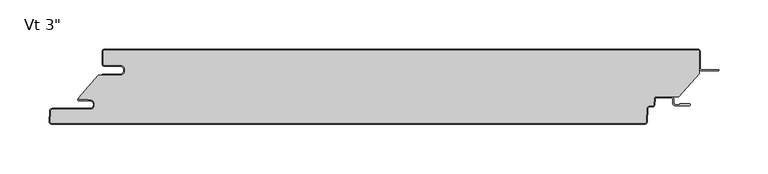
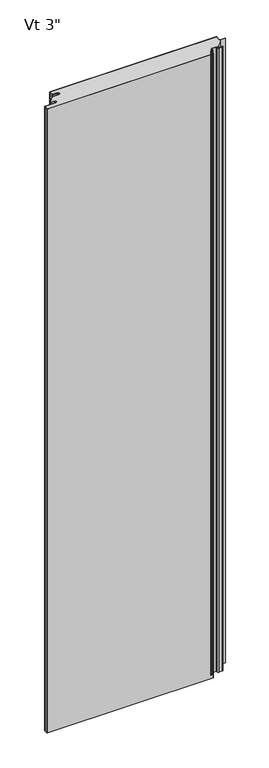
"""IFC4 building model written with IfcOpenShell, lengths in millimetres: plate geometry."""

from ifc_helpers import new_model, si_unit, point, frame, frame_2d, origin, origin_with_axes, place, context, project, spatial, polyline, circle_curve, ellipse_curve, trimmed, segment, composite_curve, outline, extrude, source, transform, mapped, element, save
from ifc_brep_helpers import plane_surface, cylinder_surface, revolved_surface, extruded_surface, advanced_brep


def plate_d223b39a(model_context):
    return source(origin(), model_context, "Body", "SolidModel", [
        extrude(outline(composite_curve([segment(polyline([(-285.74375, -16.4625), (-301.61875, -16.4625)]), True, "CONTINUOUS"), segment(trimmed(circle_curve(frame_2d((-301.61875, -15.08125)), 1.38125), [point((-301.61875, -16.4625))], [point((-303.0, -15.08125))], False, "CARTESIAN"), True, "CONTINUOUS"), segment(polyline([(-303.0, -15.08125), (-303.0, -2.38125)]), True, "CONTINUOUS"), segment(trimmed(circle_curve(frame_2d((-301.61875, -2.38125)), 1.38125), [point((-303.0, -2.38125))], [point((-301.61875, -1.0))], False, "CARTESIAN"), True, "CONTINUOUS"), segment(polyline([(-301.61875, -1.0), (301.63125, -1.0)]), True, "CONTINUOUS"), segment(trimmed(circle_curve(frame_2d((301.63125, -2.38125)), 1.38125), [point((301.63125, -1.0))], [point((303.0125, -2.38125))], False, "CARTESIAN"), True, "CONTINUOUS"), segment(polyline([(303.0125, -2.38125), (303.0125, -24.9057308), (282.1955434, -48.2125), (259.7540783, -48.2125)]), True, "CONTINUOUS"), segment(trimmed(circle_curve(frame_2d((259.7540783, -50.8)), 2.5875), [point((259.7540783, -48.2125))], [point((257.1701244, -50.6645807))], True, "CARTESIAN"), True, "CONTINUOUS"), segment(polyline([(257.1701244, -50.6645807), (256.8680481, -56.428539)]), True, "CONTINUOUS"), segment(trimmed(circle_curve(frame_2d((255.4886911, -56.35625)), 1.38125), [point((256.8680481, -56.428539))], [point((255.4886911, -57.7375))], False, "CARTESIAN"), True, "CONTINUOUS"), segment(polyline([(255.4886911, -57.7375), (252.4448847, -57.7375)]), True, "CONTINUOUS"), segment(trimmed(circle_curve(frame_2d((252.4448847, -60.325)), 2.5875), [point((252.4448847, -57.7375))], [point((249.8609307, -60.1895807))], True, "CARTESIAN"), True, "CONTINUOUS"), segment(polyline([(249.8609307, -60.1895807), (249.1428677, -73.891039)]), True, "CONTINUOUS"), segment(trimmed(circle_curve(frame_2d((247.7635107, -73.81875)), 1.38125), [point((249.1428677, -73.891039))], [point((247.7635107, -75.2))], False, "CARTESIAN"), True, "CONTINUOUS"), segment(polyline([(247.7635107, -75.2), (-355.4799535, -75.2)]), True, "CONTINUOUS"), segment(trimmed(circle_curve(frame_2d((-355.4799535, -73.81875)), 1.38125), [point((-355.4799535, -75.2))], [point((-356.8593106, -73.746461))], False, "CARTESIAN"), True, "CONTINUOUS"), segment(polyline([(-356.8593106, -73.746461), (-356.2769291, -62.633961)]), True, "CONTINUOUS"), segment(trimmed(circle_curve(frame_2d((-354.8975721, -62.70625)), 1.38125), [point((-356.2769291, -62.633961))], [point((-354.8975721, -61.325))], False, "CARTESIAN"), True, "CONTINUOUS"), segment(polyline([(-354.8975721, -61.325), (-316.7142674, -61.325)]), True, "CONTINUOUS"), segment(trimmed(circle_curve(frame_2d((-316.7142674, -56.35625)), 4.96875), [point((-316.7142674, -61.325))], [point((-316.7142674, -51.3875))], True, "CARTESIAN"), True, "CONTINUOUS"), segment(polyline([(-316.7142674, -51.3875), (-318.3017674, -51.59375), (-318.3017674, -50.8), (-327.8125, -50.8), (-327.8125, -49.2157227), (-307.9260922, -26.4), (-285.74375, -26.4)]), True, "CONTINUOUS"), segment(trimmed(circle_curve(frame_2d((-285.74375, -21.43125)), 4.96875), [point((-285.74375, -26.4))], [point((-285.74375, -16.4625))], True, "CARTESIAN"), True, "CONTINUOUS")], self_intersect=False)), origin_with_axes(), (0.0, 0.0, 1.0), 2400.0),
        extrude(outline(composite_curve([segment(polyline([(-304.0, -25.4), (-285.74375, -25.4)]), True, "CONTINUOUS"), segment(trimmed(circle_curve(frame_2d((-285.74375, -21.43125)), 3.96875), [point((-285.74375, -25.4))], [point((-285.74375, -17.4625))], True, "CARTESIAN"), True, "CONTINUOUS"), segment(polyline([(-285.74375, -17.4625), (-301.61875, -17.4625)]), True, "CONTINUOUS"), segment(trimmed(circle_curve(frame_2d((-301.61875, -15.08125)), 2.38125), [point((-301.61875, -17.4625))], [point((-304.0, -15.08125))], False, "CARTESIAN"), True, "CONTINUOUS"), segment(polyline([(-304.0, -15.08125), (-304.0, -2.38125)]), True, "CONTINUOUS"), segment(trimmed(circle_curve(frame_2d((-301.61875, -2.38125)), 2.38125), [point((-304.0, -2.38125))], [point((-301.61875, 0.0))], False, "CARTESIAN"), True, "CONTINUOUS"), segment(polyline([(-301.61875, 0.0), (301.63125, 0.0)]), True, "CONTINUOUS"), segment(trimmed(circle_curve(frame_2d((301.63125, -2.38125)), 2.38125), [point((301.63125, 0.0))], [point((304.0125, -2.38125))], False, "CARTESIAN"), True, "CONTINUOUS"), segment(polyline([(304.0125, -2.38125), (304.0125, -19.446875)]), True, "CONTINUOUS"), segment(trimmed(circle_curve(frame_2d((305.6, -19.446875)), 1.5875), [point((304.0125, -19.446875))], [point((305.6, -21.034375))], True, "CARTESIAN"), True, "CONTINUOUS"), segment(polyline([(305.6, -21.034375), (323.0625, -21.034375), (323.0625, -22.034375), (305.6, -22.034375)]), True, "CONTINUOUS"), segment(trimmed(circle_curve(frame_2d((305.6, -19.446875)), 2.5875), [point((305.6, -22.034375))], [point((303.0125, -19.446875))], False, "CARTESIAN"), True, "CONTINUOUS"), segment(polyline([(303.0125, -19.446875), (303.0125, -2.38125)]), True, "CONTINUOUS"), segment(trimmed(circle_curve(frame_2d((301.63125, -2.38125)), 1.38125), [point((303.0125, -2.38125))], [point((301.63125, -1.0))], True, "CARTESIAN"), True, "CONTINUOUS"), segment(polyline([(301.63125, -1.0), (-301.61875, -1.0)]), True, "CONTINUOUS"), segment(trimmed(circle_curve(frame_2d((-301.61875, -2.38125)), 1.38125), [point((-301.61875, -1.0))], [point((-303.0, -2.38125))], True, "CARTESIAN"), True, "CONTINUOUS"), segment(polyline([(-303.0, -2.38125), (-303.0, -15.08125)]), True, "CONTINUOUS"), segment(trimmed(circle_curve(frame_2d((-301.61875, -15.08125)), 1.38125), [point((-303.0, -15.08125))], [point((-301.61875, -16.4625))], True, "CARTESIAN"), True, "CONTINUOUS"), segment(polyline([(-301.61875, -16.4625), (-285.74375, -16.4625)]), True, "CONTINUOUS"), segment(trimmed(circle_curve(frame_2d((-285.74375, -21.43125)), 4.96875), [point((-285.74375, -16.4625))], [point((-285.74375, -26.4))], False, "CARTESIAN"), True, "CONTINUOUS"), segment(polyline([(-285.74375, -26.4), (-304.0, -26.4), (-304.0, -25.4)]), True, "CONTINUOUS")], self_intersect=False)), origin_with_axes(), (0.0, 0.0, 1.0), 2400.0),
        advanced_brep(
        [(-328.0252049, -50.8, 2400.0), (-328.0252049, -52.3875, 2400.0), (-316.7142674, -52.3875, 2400.0), (-316.7142674, -60.325, 2400.0), (-354.8975721, -60.325, 2400.0), (-357.2755586, -62.581625, 2400.0), (-357.8579401, -73.694125, 2400.0), (-355.4799535, -76.2, 2400.0), (247.7635107, -76.2, 2400.0), (250.1414973, -73.943375, 2400.0), (250.8595603, -60.2419167, 2400.0), (252.4448847, -58.7375, 2400.0), (255.4886911, -58.7375, 2400.0), (257.8666776, -56.480875, 2400.0), (258.1687539, -50.7169167, 2400.0), (259.7540783, -49.2125, 2400.0), (274.6294826, -49.2125, 2400.0), (276.2169826, -50.8, 2400.0), (276.2169826, -54.9671875, 2400.0), (278.5982326, -57.3484375, 2400.0), (293.0898532, -57.3484375, 2400.0), (293.0898532, -55.5546875, 2400.0), (283.3607326, -55.5546875, 2400.0), (283.3607326, -56.3484375, 2400.0), (278.5982326, -56.3484375, 2400.0), (277.2169826, -54.9671875, 2400.0), (277.2169826, -50.8, 2400.0), (274.6294826, -48.2125, 2400.0), (259.7540783, -48.2125, 2400.0), (257.1701244, -50.6645807, 2400.0), (256.8680481, -56.428539, 2400.0), (255.4886911, -57.7375, 2400.0), (252.4448847, -57.7375, 2400.0), (249.8609307, -60.1895807, 2400.0), (249.1428677, -73.891039, 2400.0), (247.7635107, -75.2, 2400.0), (-355.4799535, -75.2, 2400.0), (-356.8593106, -73.746461, 2400.0), (-356.2769291, -62.633961, 2400.0), (-354.8975721, -61.325, 2400.0), (-316.7142674, -61.325, 2400.0), (-316.7142674, -51.3875, 2400.0), (-318.3017674, -51.59375, 2400.0), (-318.3017674, -50.8, 2400.0), (-328.0252049, -50.8, 0.0), (-318.3017674, -50.8, 0.0), (-318.3017674, -51.59375, 0.0), (-316.7142674, -51.3875, 0.0), (-316.7142674, -61.325, 0.0), (-354.8975721, -61.325, 0.0), (-356.2769291, -62.633961, 0.0), (-356.8593106, -73.746461, 0.0), (-355.4799535, -75.2, 0.0), (247.7635107, -75.2, 0.0), (249.1428677, -73.891039, 0.0), (249.8609307, -60.1895807, 0.0), (252.4448847, -57.7375, 0.0), (255.4886911, -57.7375, 0.0), (256.8680481, -56.428539, 0.0), (257.1701244, -50.6645807, 0.0), (259.7540783, -48.2125, 0.0), (274.6294826, -48.2125, 0.0), (277.2169826, -50.8, 0.0), (277.2169826, -54.9671875, 0.0), (278.5982326, -56.3484375, 0.0), (283.3607326, -56.3484375, 0.0), (283.3607326, -55.5546875, 0.0), (293.0898532, -55.5546875, 0.0), (293.0898532, -57.3484375, 0.0), (278.5982326, -57.3484375, 0.0), (276.2169826, -54.9671875, 0.0), (276.2169826, -50.8, 0.0), (274.6294826, -49.2125, 0.0), (259.7540783, -49.2125, 0.0), (258.1687539, -50.7169167, 0.0), (257.8666776, -56.480875, 0.0), (255.4886911, -58.7375, 0.0), (252.4448847, -58.7375, 0.0), (250.8595603, -60.2419167, 0.0), (250.1414973, -73.943375, 0.0), (247.7635107, -76.2, 0.0), (-355.4799535, -76.2, 0.0), (-357.8579401, -73.694125, 0.0), (-357.2755586, -62.581625, 0.0), (-354.8975721, -60.325, 0.0), (-316.7142674, -60.325, 0.0), (-316.7142674, -52.3875, 0.0), (-328.0252049, -52.3875, 0.0)],
        [
            (0, 1, circle_curve(frame((-328.0252049, -51.59375, 2400.0), z_axis=(0.0, 0.0, 1.0), x_axis=(1.0, 0.0, 0.0)), 0.79375)),
            (1, 2),
            (2, 3, circle_curve(frame((-316.7142674, -56.35625, 2400.0), z_axis=(0.0, 0.0, -1.0), x_axis=(1.0, 0.0, 0.0)), 3.96875)),
            (3, 4),
            (4, 5, circle_curve(frame((-354.8975721, -62.70625, 2400.0), z_axis=(0.0, 0.0, 1.0), x_axis=(1.0, 0.0, 0.0)), 2.38125)),
            (5, 6),
            (6, 7, circle_curve(frame((-355.4799535, -73.81875, 2400.0), z_axis=(0.0, 0.0, 1.0), x_axis=(1.0, 0.0, 0.0)), 2.38125)),
            (7, 8),
            (8, 9, circle_curve(frame((247.7635107, -73.81875, 2400.0), z_axis=(0.0, 0.0, 1.0), x_axis=(1.0, 0.0, 0.0)), 2.38125)),
            (9, 10),
            (10, 11, circle_curve(frame((252.4448847, -60.325, 2400.0), z_axis=(0.0, 0.0, -1.0), x_axis=(1.0, 0.0, 0.0)), 1.5875)),
            (11, 12),
            (12, 13, circle_curve(frame((255.4886911, -56.35625, 2400.0), z_axis=(0.0, 0.0, 1.0), x_axis=(1.0, 0.0, 0.0)), 2.38125)),
            (13, 14),
            (14, 15, circle_curve(frame((259.7540783, -50.8, 2400.0), z_axis=(0.0, 0.0, -1.0), x_axis=(1.0, 0.0, 0.0)), 1.5875)),
            (15, 16),
            (16, 17, circle_curve(frame((274.6294826, -50.8, 2400.0), z_axis=(0.0, 0.0, -1.0), x_axis=(1.0, 0.0, 0.0)), 1.5875)),
            (17, 18),
            (18, 19, circle_curve(frame((278.5982326, -54.9671875, 2400.0), z_axis=(0.0, 0.0, 1.0), x_axis=(1.0, 0.0, 0.0)), 2.38125)),
            (19, 20),
            (20, 21, ellipse_curve(frame((293.0898532, -56.4515625, 2400.0), z_axis=(0.0, 0.0, 1.0), x_axis=(0.0, 1.0, 0.0)), 0.896875, 0.7852275)),
            (21, 22),
            (22, 23),
            (23, 24),
            (24, 25, circle_curve(frame((278.5982326, -54.9671875, 2400.0), z_axis=(0.0, 0.0, -1.0), x_axis=(1.0, 0.0, 0.0)), 1.38125)),
            (25, 26),
            (26, 27, circle_curve(frame((274.6294826, -50.8, 2400.0), z_axis=(0.0, 0.0, 1.0), x_axis=(1.0, 0.0, 0.0)), 2.5875)),
            (27, 28),
            (28, 29, circle_curve(frame((259.7540783, -50.8, 2400.0), z_axis=(0.0, 0.0, 1.0), x_axis=(1.0, 0.0, 0.0)), 2.5875)),
            (29, 30),
            (30, 31, circle_curve(frame((255.4886911, -56.35625, 2400.0), z_axis=(0.0, 0.0, -1.0), x_axis=(1.0, 0.0, 0.0)), 1.38125)),
            (31, 32),
            (32, 33, circle_curve(frame((252.4448847, -60.325, 2400.0), z_axis=(0.0, 0.0, 1.0), x_axis=(1.0, 0.0, 0.0)), 2.5875)),
            (33, 34),
            (34, 35, circle_curve(frame((247.7635107, -73.81875, 2400.0), z_axis=(0.0, 0.0, -1.0), x_axis=(1.0, 0.0, 0.0)), 1.38125)),
            (35, 36),
            (36, 37, circle_curve(frame((-355.4799535, -73.81875, 2400.0), z_axis=(0.0, 0.0, -1.0), x_axis=(1.0, 0.0, 0.0)), 1.38125)),
            (37, 38),
            (38, 39, circle_curve(frame((-354.8975721, -62.70625, 2400.0), z_axis=(0.0, 0.0, -1.0), x_axis=(1.0, 0.0, 0.0)), 1.38125)),
            (39, 40),
            (40, 41, circle_curve(frame((-316.7142674, -56.35625, 2400.0), z_axis=(0.0, 0.0, 1.0), x_axis=(1.0, 0.0, 0.0)), 4.96875)),
            (41, 42),
            (42, 43),
            (43, 0),
            (44, 45),
            (45, 46),
            (46, 47),
            (47, 48, circle_curve(frame((-316.7142674, -56.35625, 0.0), z_axis=(0.0, 0.0, -1.0), x_axis=(1.0, 0.0, 0.0)), 4.96875)),
            (48, 49),
            (49, 50, circle_curve(frame((-354.8975721, -62.70625, 0.0), z_axis=(0.0, 0.0, 1.0), x_axis=(1.0, 0.0, 0.0)), 1.38125)),
            (50, 51),
            (51, 52, circle_curve(frame((-355.4799535, -73.81875, 0.0), z_axis=(0.0, 0.0, 1.0), x_axis=(1.0, 0.0, 0.0)), 1.38125)),
            (52, 53),
            (53, 54, circle_curve(frame((247.7635107, -73.81875, 0.0), z_axis=(0.0, 0.0, 1.0), x_axis=(1.0, 0.0, 0.0)), 1.38125)),
            (54, 55),
            (55, 56, circle_curve(frame((252.4448847, -60.325, 0.0), z_axis=(0.0, 0.0, -1.0), x_axis=(1.0, 0.0, 0.0)), 2.5875)),
            (56, 57),
            (57, 58, circle_curve(frame((255.4886911, -56.35625, 0.0), z_axis=(0.0, 0.0, 1.0), x_axis=(1.0, 0.0, 0.0)), 1.38125)),
            (58, 59),
            (59, 60, circle_curve(frame((259.7540783, -50.8, 0.0), z_axis=(0.0, 0.0, -1.0), x_axis=(1.0, 0.0, 0.0)), 2.5875)),
            (60, 61),
            (61, 62, circle_curve(frame((274.6294826, -50.8, 0.0), z_axis=(0.0, 0.0, -1.0), x_axis=(1.0, 0.0, 0.0)), 2.5875)),
            (62, 63),
            (63, 64, circle_curve(frame((278.5982326, -54.9671875, 0.0), z_axis=(0.0, 0.0, 1.0), x_axis=(1.0, 0.0, 0.0)), 1.38125)),
            (64, 65),
            (65, 66),
            (66, 67),
            (67, 68, ellipse_curve(frame((293.0898532, -56.4515625, 0.0), z_axis=(0.0, 0.0, -1.0), x_axis=(0.0, 1.0, 0.0)), 0.896875, 0.7852275)),
            (68, 69),
            (69, 70, circle_curve(frame((278.5982326, -54.9671875, 0.0), z_axis=(0.0, 0.0, -1.0), x_axis=(1.0, 0.0, 0.0)), 2.38125)),
            (70, 71),
            (71, 72, circle_curve(frame((274.6294826, -50.8, 0.0), z_axis=(0.0, 0.0, 1.0), x_axis=(1.0, 0.0, 0.0)), 1.5875)),
            (72, 73),
            (73, 74, circle_curve(frame((259.7540783, -50.8, 0.0), z_axis=(0.0, 0.0, 1.0), x_axis=(1.0, 0.0, 0.0)), 1.5875)),
            (74, 75),
            (75, 76, circle_curve(frame((255.4886911, -56.35625, 0.0), z_axis=(0.0, 0.0, -1.0), x_axis=(1.0, 0.0, 0.0)), 2.38125)),
            (76, 77),
            (77, 78, circle_curve(frame((252.4448847, -60.325, 0.0), z_axis=(0.0, 0.0, 1.0), x_axis=(1.0, 0.0, 0.0)), 1.5875)),
            (78, 79),
            (79, 80, circle_curve(frame((247.7635107, -73.81875, 0.0), z_axis=(0.0, 0.0, -1.0), x_axis=(1.0, 0.0, 0.0)), 2.38125)),
            (80, 81),
            (81, 82, circle_curve(frame((-355.4799535, -73.81875, 0.0), z_axis=(0.0, 0.0, -1.0), x_axis=(1.0, 0.0, 0.0)), 2.38125)),
            (82, 83),
            (83, 84, circle_curve(frame((-354.8975721, -62.70625, 0.0), z_axis=(0.0, 0.0, -1.0), x_axis=(1.0, 0.0, 0.0)), 2.38125)),
            (84, 85),
            (85, 86, circle_curve(frame((-316.7142674, -56.35625, 0.0), z_axis=(0.0, 0.0, 1.0), x_axis=(1.0, 0.0, 0.0)), 3.96875)),
            (86, 87),
            (87, 44, circle_curve(frame((-328.0252049, -51.59375, 0.0), z_axis=(0.0, 0.0, -1.0), x_axis=(1.0, 0.0, 0.0)), 0.79375)),
            (20, 68),
            (67, 21),
            (66, 22),
            (65, 23),
            (41, 47),
            (46, 42),
            (45, 43),
            (40, 48),
            (39, 49),
            (38, 50),
            (37, 51),
            (33, 55),
            (54, 34),
            (32, 56),
            (31, 57),
            (30, 58),
            (29, 59),
            (28, 60),
            (64, 24),
            (63, 25),
            (62, 26),
            (61, 27),
            (18, 70),
            (69, 19),
            (17, 71),
            (16, 72),
            (15, 73),
            (14, 74),
            (13, 75),
            (12, 76),
            (11, 77),
            (10, 78),
            (9, 79),
            (5, 83),
            (82, 6),
            (4, 84),
            (3, 85),
            (2, 86),
            (1, 87),
            (0, 44),
            (36, 52),
            (35, 53),
            (8, 80),
            (7, 81),
        ],
        [
            plane_surface(frame((0.00625, -76.2, 2400.0), z_axis=(0.0, 0.0, 1.0), x_axis=(0.0, -1.0, 0.0))),
            plane_surface(frame((0.00625, -76.2, 0.0), z_axis=(0.0, 0.0, -1.0), x_axis=(0.0, -1.0, 0.0))),
            extruded_surface(trimmed(ellipse_curve(frame((293.0898532, -56.4515625, 2400.0), z_axis=(0.0, 0.0, -1.0), x_axis=(0.0, 1.0, 0.0)), 0.896875, 0.7852275), [point((293.0898532, -55.5546875, 2400.0))], [point((293.0898532, -57.3484375, 2400.0))], True, "CARTESIAN"), (0.0, 0.0, -2400.0), 2400.0),
            plane_surface(frame((283.3607326, -55.5546875, 2400.0), z_axis=(0.0, 1.0, 0.0), x_axis=(0.0, 0.0, -1.0))),
            plane_surface(frame((283.3607326, -56.3484375, 2400.0), z_axis=(-1.0, 0.0, 0.0), x_axis=(0.0, 0.0, -1.0))),
            plane_surface(frame((-318.3017674, -51.59375, 2400.0), z_axis=(-0.12883844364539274, 0.9916655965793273, 0.0), x_axis=(0.0, 0.0, -1.0))),
            plane_surface(frame((-318.3017674, -50.8, 2400.0), z_axis=(1.0, 0.0, 0.0), x_axis=(0.0, 0.0, -1.0))),
            cylinder_surface(frame((-316.7142674, -56.35625, 2400.0), z_axis=(0.0, 0.0, 1.0), x_axis=(1.0, 0.0, 0.0)), 4.96875),
            plane_surface(frame((-316.7142674, -61.325, 2400.0), z_axis=(0.0, -1.0, 0.0), x_axis=(0.0, 0.0, -1.0))),
            revolved_surface(polyline([(-353.51632209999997, -62.70625, 0.0), (-353.51632209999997, -62.70625, 2400.0)]), (-354.8975721, -62.70625, 2400.0), (0.0, 0.0, -1.0)),
            plane_surface(frame((-356.2769291, -62.633961, 2400.0), z_axis=(0.9986295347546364, -0.05233595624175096, 0.0), x_axis=(0.0, 0.0, -1.0))),
            plane_surface(frame((249.1428677, -73.891039, 2400.0), z_axis=(-0.9986295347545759, 0.05233595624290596, 0.0), x_axis=(0.0, 0.0, -1.0))),
            cylinder_surface(frame((252.4448847, -60.325, 2400.0), z_axis=(0.0, 0.0, 1.0), x_axis=(1.0, 0.0, 0.0)), 2.5875),
            plane_surface(frame((252.4448847, -57.7375, 2400.0), z_axis=(0.0, 1.0, 0.0), x_axis=(0.0, 0.0, -1.0))),
            revolved_surface(polyline([(256.8699411, -56.35625, 0.0), (256.8699411, -56.35625, 2400.0)]), (255.4886911, -56.35625, 2400.0), (0.0, 0.0, -1.0)),
            plane_surface(frame((256.8680481, -56.428539, 2400.0), z_axis=(-0.998629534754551, 0.05233595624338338, 0.0), x_axis=(0.0, 0.0, -1.0))),
            cylinder_surface(frame((259.7540783, -50.8, 2400.0), z_axis=(0.0, 0.0, 1.0), x_axis=(1.0, 0.0, 0.0)), 2.5875),
            plane_surface(frame((278.5982326, -56.3484375, 2400.0), z_axis=(0.0, 1.0, 0.0), x_axis=(0.0, 0.0, -1.0))),
            revolved_surface(polyline([(279.97948260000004, -54.9671875, 0.0), (279.97948260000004, -54.9671875, 2400.0)]), (278.5982326, -54.9671875, 2400.0), (0.0, 0.0, -1.0)),
            plane_surface(frame((277.2169826, -50.8, 2400.0), z_axis=(1.0, 0.0, 0.0), x_axis=(0.0, 0.0, -1.0))),
            cylinder_surface(frame((274.6294826, -50.8, 2400.0), z_axis=(0.0, 0.0, 1.0), x_axis=(1.0, 0.0, 0.0)), 2.5875),
            plane_surface(frame((259.7540783, -48.2125, 2400.0), z_axis=(0.0, 1.0, 0.0), x_axis=(0.0, 0.0, -1.0))),
            cylinder_surface(frame((278.5982326, -54.9671875, 2400.0), z_axis=(0.0, 0.0, 1.0), x_axis=(1.0, 0.0, 0.0)), 2.38125),
            plane_surface(frame((276.2169826, -54.9671875, 2400.0), z_axis=(-1.0, 0.0, 0.0), x_axis=(0.0, 0.0, -1.0))),
            revolved_surface(polyline([(276.2169826, -50.8, 0.0), (276.2169826, -50.8, 2400.0)]), (274.6294826, -50.8, 2400.0), (0.0, 0.0, -1.0)),
            plane_surface(frame((274.6294826, -49.2125, 2400.0), z_axis=(0.0, -1.0, 0.0), x_axis=(0.0, 0.0, -1.0))),
            revolved_surface(polyline([(261.3415783, -50.8, 0.0), (261.3415783, -50.8, 2400.0)]), (259.7540783, -50.8, 2400.0), (0.0, 0.0, -1.0)),
            plane_surface(frame((258.1687539, -50.7169167, 2400.0), z_axis=(0.9986295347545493, -0.05233595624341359, 0.0), x_axis=(0.0, 0.0, -1.0))),
            cylinder_surface(frame((255.4886911, -56.35625, 2400.0), z_axis=(0.0, 0.0, 1.0), x_axis=(1.0, 0.0, 0.0)), 2.38125),
            plane_surface(frame((255.4886911, -58.7375, 2400.0), z_axis=(0.0, -1.0, 0.0), x_axis=(0.0, 0.0, -1.0))),
            revolved_surface(polyline([(254.0323847, -60.325, 0.0), (254.0323847, -60.325, 2400.0)]), (252.4448847, -60.325, 2400.0), (0.0, 0.0, -1.0)),
            plane_surface(frame((250.8595603, -60.2419167, 2400.0), z_axis=(0.9986295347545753, -0.052335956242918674, 0.0), x_axis=(0.0, 0.0, -1.0))),
            plane_surface(frame((-357.8579401, -73.694125, 2400.0), z_axis=(-0.9986295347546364, 0.05233595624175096, 0.0), x_axis=(0.0, 0.0, -1.0))),
            cylinder_surface(frame((-354.8975721, -62.70625, 2400.0), z_axis=(0.0, 0.0, 1.0), x_axis=(1.0, 0.0, 0.0)), 2.38125),
            plane_surface(frame((-354.8975721, -60.325, 2400.0), z_axis=(0.0, 1.0, 0.0), x_axis=(0.0, 0.0, -1.0))),
            revolved_surface(polyline([(-312.7455174, -56.35625, 0.0), (-312.7455174, -56.35625, 2400.0)]), (-316.7142674, -56.35625, 2400.0), (0.0, 0.0, -1.0)),
            plane_surface(frame((-316.7142674, -52.3875, 2400.0), z_axis=(0.0, -1.0, 0.0), x_axis=(0.0, 0.0, -1.0))),
            cylinder_surface(frame((-328.0252049, -51.59375, 2400.0), z_axis=(0.0, 0.0, 1.0), x_axis=(1.0, 0.0, 0.0)), 0.79375),
            plane_surface(frame((-328.0252049, -50.8, 2400.0), z_axis=(0.0, 1.0, 0.0), x_axis=(0.0, 0.0, -1.0))),
            revolved_surface(polyline([(-354.0987035, -73.81875, 0.0), (-354.0987035, -73.81875, 2400.0)]), (-355.4799535, -73.81875, 2400.0), (0.0, 0.0, -1.0)),
            plane_surface(frame((-355.4799535, -75.2, 2400.0), z_axis=(0.0, 1.0, 0.0), x_axis=(0.0, 0.0, -1.0))),
            revolved_surface(polyline([(249.1447607, -73.81875, 0.0), (249.1447607, -73.81875, 2400.0)]), (247.7635107, -73.81875, 2400.0), (0.0, 0.0, -1.0)),
            plane_surface(frame((293.0898532, -57.3484375, 2400.0), z_axis=(0.0, -1.0, 0.0), x_axis=(0.0, 0.0, -1.0))),
            cylinder_surface(frame((247.7635107, -73.81875, 2400.0), z_axis=(0.0, 0.0, 1.0), x_axis=(1.0, 0.0, 0.0)), 2.38125),
            plane_surface(frame((247.7635107, -76.2, 2400.0), z_axis=(0.0, -1.0, 0.0), x_axis=(0.0, 0.0, -1.0))),
            cylinder_surface(frame((-355.4799535, -73.81875, 2400.0), z_axis=(0.0, 0.0, 1.0), x_axis=(1.0, 0.0, 0.0)), 2.38125),
        ],
        [
            (0, [[1, 2, 3, 4, 5, 6, 7, 8, 9, 10, 11, 12, 13, 14, 15, 16, 17, 18, 19, 20, 21, 22, 23, 24, 25, 26, 27, 28, 29, 30, 31, 32, 33, 34, 35, 36, 37, 38, 39, 40, 41, 42, 43, 44]]),
            (1, [[45, 46, 47, 48, 49, 50, 51, 52, 53, 54, 55, 56, 57, 58, 59, 60, 61, 62, 63, 64, 65, 66, 67, 68, 69, 70, 71, 72, 73, 74, 75, 76, 77, 78, 79, 80, 81, 82, 83, 84, 85, 86, 87, 88]]),
            (2, [[89, -68, 90, -21]]),
            (3, [[-90, -67, 91, -22]]),
            (4, [[-91, -66, 92, -23]]),
            (5, [[93, -47, 94, -42]]),
            (6, [[-94, -46, 95, -43]]),
            (7, [[96, -48, -93, -41]]),
            (8, [[97, -49, -96, -40]]),
            (9, [[98, -50, -97, -39]]),
            (10, [[99, -51, -98, -38]]),
            (11, [[100, -55, 101, -34]]),
            (12, [[102, -56, -100, -33]]),
            (13, [[103, -57, -102, -32]]),
            (14, [[104, -58, -103, -31]]),
            (15, [[105, -59, -104, -30]]),
            (16, [[106, -60, -105, -29]]),
            (17, [[-92, -65, 107, -24]]),
            (18, [[-107, -64, 108, -25]]),
            (19, [[-108, -63, 109, -26]]),
            (20, [[-109, -62, 110, -27]]),
            (21, [[-110, -61, -106, -28]]),
            (22, [[111, -70, 112, -19]]),
            (23, [[113, -71, -111, -18]]),
            (24, [[114, -72, -113, -17]]),
            (25, [[115, -73, -114, -16]]),
            (26, [[116, -74, -115, -15]]),
            (27, [[117, -75, -116, -14]]),
            (28, [[118, -76, -117, -13]]),
            (29, [[119, -77, -118, -12]]),
            (30, [[120, -78, -119, -11]]),
            (31, [[121, -79, -120, -10]]),
            (32, [[122, -83, 123, -6]]),
            (33, [[124, -84, -122, -5]]),
            (34, [[125, -85, -124, -4]]),
            (35, [[126, -86, -125, -3]]),
            (36, [[127, -87, -126, -2]]),
            (37, [[128, -88, -127, -1]]),
            (38, [[-95, -45, -128, -44]]),
            (39, [[129, -52, -99, -37]]),
            (40, [[130, -53, -129, -36]]),
            (41, [[-101, -54, -130, -35]]),
            (42, [[-112, -69, -89, -20]]),
            (43, [[131, -80, -121, -9]]),
            (44, [[132, -81, -131, -8]]),
            (45, [[-123, -82, -132, -7]]),
        ],
    ),
    ])


if __name__ == "__main__":
    model = new_model("IFC4")
    model_context = context("Model", 3, world=origin())
    ifc_project = project(units=[si_unit("LENGTHUNIT", "METRE", prefix="MILLI")], contexts=[model_context])
    site = spatial("IfcSite", under=ifc_project)
    building = spatial("IfcBuilding", under=site)
    placement = place(None, origin())
    plate_shape = plate_d223b39a(model_context)
    element("IfcPlate", 1, ObjectType="KIP-24-DWTR-R19-CP-Vt-F : Vt 3\"", at=placement, inside=building, context=model_context, shape_type="MappedRepresentation", body=[
        mapped(plate_shape, transform((0.0, 0.0, 0.0), x_axis=(1.0, 0.0, 0.0), y_axis=(0.0, 1.0, 0.0), z_axis=(0.0, 0.0, 1.0))),
    ])
    save(model, "model.ifc")
